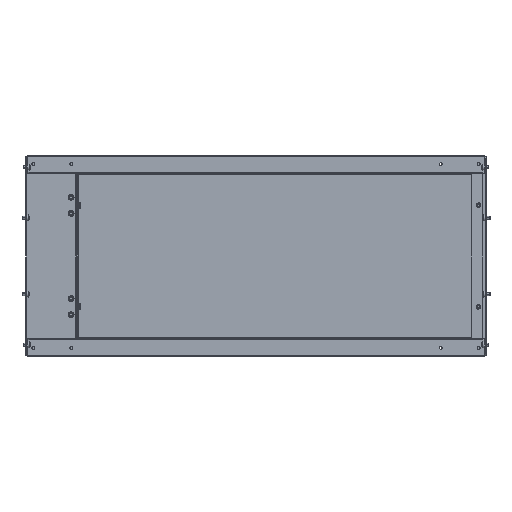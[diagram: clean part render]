
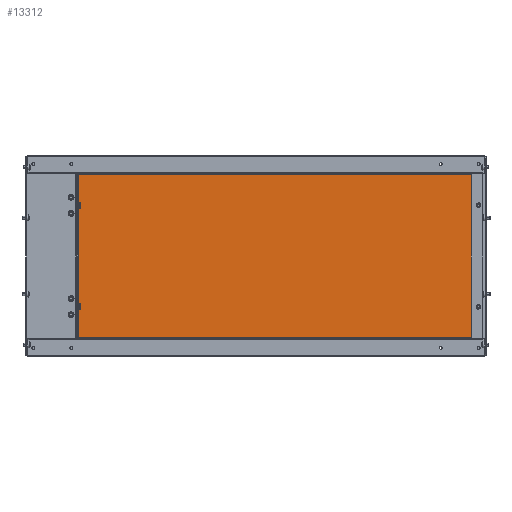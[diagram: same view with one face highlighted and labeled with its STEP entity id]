
A CAD part, left-side view. The second image highlights one B-rep face of the part: STEP entity #13312.
In plain terms, the highlighted planar face has unit normal (-1, 0, 0).
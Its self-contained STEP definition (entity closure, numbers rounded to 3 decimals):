
#1295 = ORIENTED_EDGE ( 'NONE', *, *, #12729, .T. ) ;
#1921 = VERTEX_POINT ( 'NONE', #20062 ) ;
#2807 = EDGE_CURVE ( 'NONE', #17204, #1921, #23405, .T. ) ;
#3654 = LINE ( 'NONE', #22744, #29306 ) ;
#3706 = EDGE_CURVE ( 'NONE', #1921, #18192, #21276, .T. ) ;
#5729 = VECTOR ( 'NONE', #28560, 1000. ) ;
#6529 = CARTESIAN_POINT ( 'NONE',  ( -85.059, -414.27, 918.4 ) ) ;
#7352 = LINE ( 'NONE', #14131, #25366 ) ;
#7538 = EDGE_CURVE ( 'NONE', #30859, #17204, #7352, .T. ) ;
#10745 = EDGE_LOOP ( 'NONE', ( #25424, #1295, #12201, #14426 ) ) ;
#11531 = CARTESIAN_POINT ( 'NONE',  ( -85.059, -26.52, 918.4 ) ) ;
#11990 = FACE_OUTER_BOUND ( 'NONE', #10745, .T. ) ;
#12201 = ORIENTED_EDGE ( 'NONE', *, *, #7538, .T. ) ;
#12210 = AXIS2_PLACEMENT_3D ( 'NONE', #11531, #30628, #21136 ) ;
#12729 = EDGE_CURVE ( 'NONE', #18192, #30859, #3654, .T. ) ;
#13312 = ADVANCED_FACE ( 'NONE', ( #11990 ), #16723, .T. ) ;
#14131 = CARTESIAN_POINT ( 'NONE',  ( -85.059, -26.52, 757.9 ) ) ;
#14263 = CARTESIAN_POINT ( 'NONE',  ( -85.059, 361.23, 1078.9 ) ) ;
#14426 = ORIENTED_EDGE ( 'NONE', *, *, #2807, .T. ) ;
#16723 = PLANE ( 'NONE',  #12210 ) ;
#17204 = VERTEX_POINT ( 'NONE', #28857 ) ;
#18192 = VERTEX_POINT ( 'NONE', #14263 ) ;
#18334 = DIRECTION ( 'NONE',  ( 0., 0., -1. ) ) ;
#20062 = CARTESIAN_POINT ( 'NONE',  ( -85.059, -414.27, 1078.9 ) ) ;
#21136 = DIRECTION ( 'NONE',  ( 0., 0., -1. ) ) ;
#21276 = LINE ( 'NONE', #30911, #5729 ) ;
#21838 = DIRECTION ( 'NONE',  ( 0., -1., 0. ) ) ;
#22744 = CARTESIAN_POINT ( 'NONE',  ( -85.059, 361.23, 918.4 ) ) ;
#23405 = LINE ( 'NONE', #6529, #29438 ) ;
#25296 = CARTESIAN_POINT ( 'NONE',  ( -85.059, 361.23, 757.9 ) ) ;
#25366 = VECTOR ( 'NONE', #21838, 1000. ) ;
#25424 = ORIENTED_EDGE ( 'NONE', *, *, #3706, .T. ) ;
#26233 = DIRECTION ( 'NONE',  ( 0., 0., 1. ) ) ;
#28560 = DIRECTION ( 'NONE',  ( 0., 1., 0. ) ) ;
#28857 = CARTESIAN_POINT ( 'NONE',  ( -85.059, -414.27, 757.9 ) ) ;
#29306 = VECTOR ( 'NONE', #18334, 1000. ) ;
#29438 = VECTOR ( 'NONE', #26233, 1000. ) ;
#30628 = DIRECTION ( 'NONE',  ( -1., 0., 0. ) ) ;
#30859 = VERTEX_POINT ( 'NONE', #25296 ) ;
#30911 = CARTESIAN_POINT ( 'NONE',  ( -85.059, -26.52, 1078.9 ) ) ;
